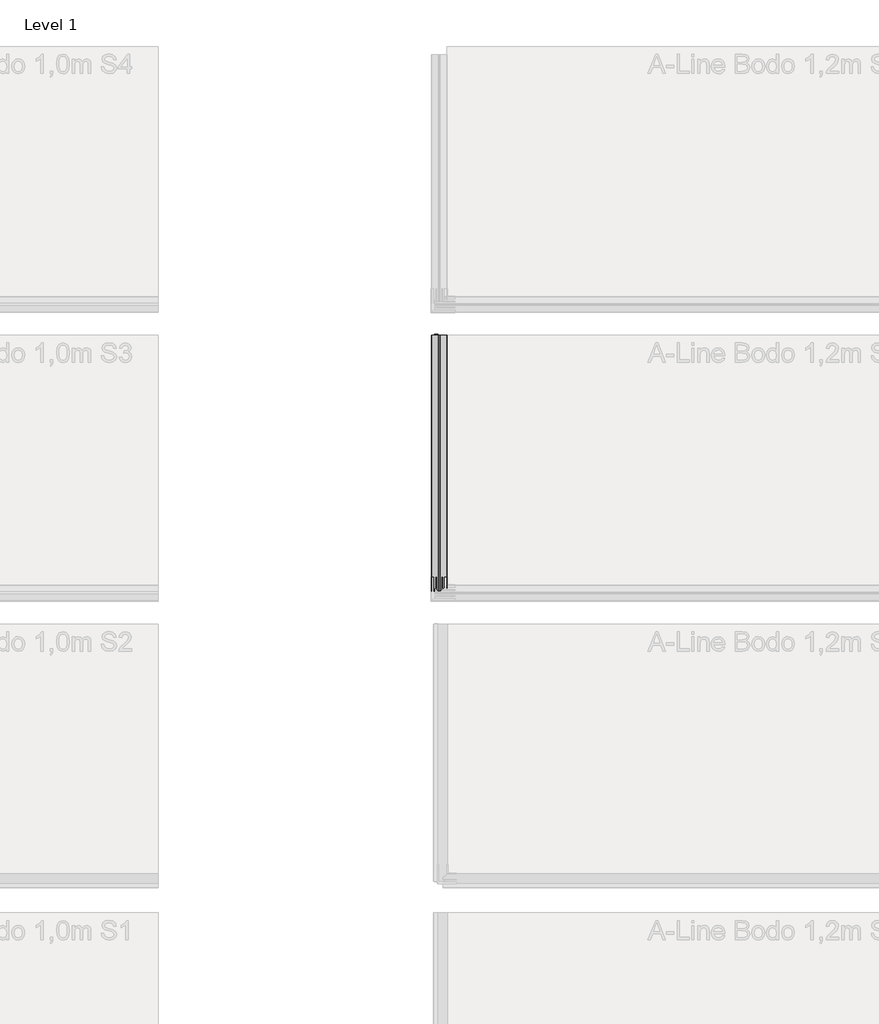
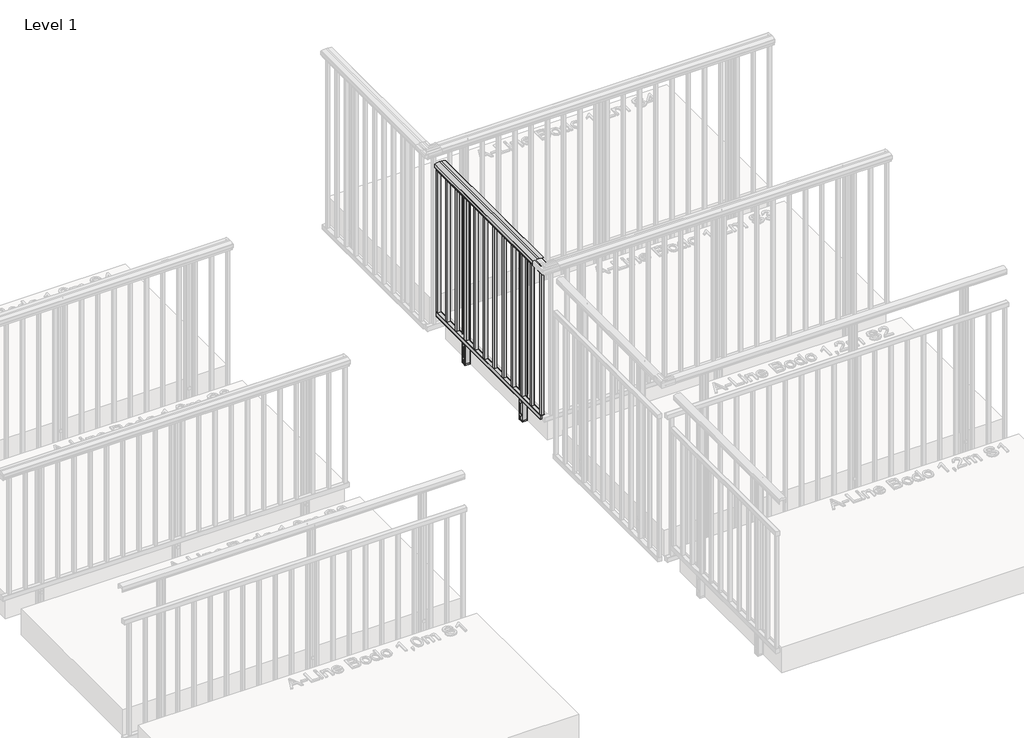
# One storey, part 14 of 66: 1 railing.
"""IFC4 building model written with IfcOpenShell, lengths in millimetres."""

from ifc_helpers import new_model, si_unit, point, frame, frame_2d, origin, place, context, project, spatial, polyline, circle_curve, trimmed, segment, composite_curve, outline, extrude, element, save

model = new_model("IFC4")

# Units and contexts
model_context = context("Model", 3, world=origin())
ifc_project = project(units=[si_unit("LENGTHUNIT", "METRE", prefix="MILLI")], contexts=[model_context])

# Site, building, storey
site = spatial("IfcSite", under=ifc_project)
building = spatial("IfcBuilding", under=site)
storey = spatial("IfcBuildingStorey", under=building, Name="Level 1", Elevation=0.0)

# Railing
placement = place(None, origin())
element("IfcRailing", 1, ObjectType="A-Line Bodo 1,2m S3", at=placement, inside=storey, context=model_context, shape_type="SweptSolid", body=[
    extrude(outline(composite_curve([segment(polyline([(1170.6825033, 8424.0540283), (1170.0570224, 8424.6795093), (1169.4717338, 8424.0942207), (1165.5021186, 8424.0540283)]), True, "CONTINUOUS"), segment(trimmed(circle_curve(frame_2d((1165.5021186, 8424.5540283)), 0.5), [point((1165.5021186, 8424.0540283))], [point((1165.0021186, 8424.5540283))], False, "CARTESIAN"), True, "CONTINUOUS"), segment(polyline([(1165.0021186, 8424.5540283), (1165.0021186, 8425.5540283), (1179.5021186, 8425.5540283)]), True, "CONTINUOUS"), segment(trimmed(circle_curve(frame_2d((1179.5021186, 8426.0540283)), 0.5), [point((1179.5021186, 8425.5540283))], [point((1180.0021186, 8426.0540283))], True, "CARTESIAN"), True, "CONTINUOUS"), segment(polyline([(1180.0021186, 8426.0540283), (1180.0021186, 8504.0540283)]), True, "CONTINUOUS"), segment(trimmed(circle_curve(frame_2d((1179.5021186, 8504.0540283)), 0.5), [point((1180.0021186, 8504.0540283))], [point((1179.5021186, 8504.5540283))], True, "CARTESIAN"), True, "CONTINUOUS"), segment(polyline([(1179.5021186, 8504.5540283), (1165.0021186, 8504.5540283), (1165.0021186, 8505.5540283)]), True, "CONTINUOUS"), segment(trimmed(circle_curve(frame_2d((1165.5021186, 8505.5540283)), 0.5), [point((1165.0021186, 8505.5540283))], [point((1165.5021186, 8506.0540283))], False, "CARTESIAN"), True, "CONTINUOUS"), segment(polyline([(1165.5021186, 8506.0540283), (1169.2627449, 8506.0540283), (1169.9177203, 8505.3990529), (1170.5325033, 8506.0138359), (1191.2139911, 8506.0540283)]), True, "CONTINUOUS"), segment(trimmed(circle_curve(frame_2d((1191.2139911, 8503.0540283)), 3.0), [point((1191.2139911, 8506.0540283))], [point((1194.0180233, 8504.1205197))], False, "CARTESIAN"), True, "CONTINUOUS"), segment(trimmed(circle_curve(frame_2d((1108.3938053, 8471.5540283)), 91.6083133), [point((1194.0180233, 8504.1205197))], [point((1200.0021186, 8471.5540283))], False, "CARTESIAN"), True, "CONTINUOUS"), segment(polyline([(1200.0021186, 8471.5540283), (1200.0021186, 8458.5540283)]), True, "CONTINUOUS"), segment(trimmed(circle_curve(frame_2d((1108.3938053, 8458.5540283)), 91.6083133), [point((1200.0021186, 8458.5540283))], [point((1194.0180233, 8425.987537))], False, "CARTESIAN"), True, "CONTINUOUS"), segment(trimmed(circle_curve(frame_2d((1191.2139911, 8427.0540283)), 3.0), [point((1194.0180233, 8425.987537))], [point((1191.2139911, 8424.0540283))], False, "CARTESIAN"), True, "CONTINUOUS"), segment(polyline([(1191.2139911, 8424.0540283), (1170.6825033, 8424.0540283)]), True, "CONTINUOUS")], self_intersect=False)), frame((0.0, -14599.7113559, 0.0), z_axis=(0.0, 1.0, 0.0), x_axis=(0.0, 0.0, 1.0)), (0.0, 0.0, 1.0), 1330.0),
    extrude(outline(composite_curve([segment(polyline([(1177.0, 8434.5047322), (1144.8, 8434.5047322)]), True, "CONTINUOUS"), segment(trimmed(circle_curve(frame_2d((1144.8, 8435.5047322)), 1.0), [point((1144.8, 8434.5047322))], [point((1143.8, 8435.5047322))], False, "CARTESIAN"), True, "CONTINUOUS"), segment(polyline([(1143.8, 8435.5047322), (1143.8, 8462.6047322)]), True, "CONTINUOUS"), segment(trimmed(circle_curve(frame_2d((1144.8, 8462.6047322)), 1.0), [point((1143.8, 8462.6047322))], [point((1144.8, 8463.6047322))], False, "CARTESIAN"), True, "CONTINUOUS"), segment(polyline([(1144.8, 8463.6047322), (1177.0, 8463.6047322)]), True, "CONTINUOUS"), segment(trimmed(circle_curve(frame_2d((1177.0, 8462.6047322)), 1.0), [point((1177.0, 8463.6047322))], [point((1178.0, 8462.6047322))], False, "CARTESIAN"), True, "CONTINUOUS"), segment(polyline([(1178.0, 8462.6047322), (1178.0, 8435.5047322)]), True, "CONTINUOUS"), segment(trimmed(circle_curve(frame_2d((1177.0, 8435.5047322)), 1.0), [point((1178.0, 8435.5047322))], [point((1177.0, 8434.5047322))], False, "CARTESIAN"), True, "CONTINUOUS")], self_intersect=False)), frame((0.0, -14599.7113559, 0.0), z_axis=(0.0, 1.0, 0.0), x_axis=(0.0, 0.0, 1.0)), (0.0, 0.0, 1.0), 1330.0),
    extrude(outline(composite_curve([segment(trimmed(circle_curve(frame_2d((33.2, 8435.5047322)), 1.0), [point((34.2, 8435.5047322))], [point((33.2, 8434.5047322))], False, "CARTESIAN"), True, "CONTINUOUS"), segment(polyline([(33.2, 8434.5047322), (1.0, 8434.5047322)]), True, "CONTINUOUS"), segment(trimmed(circle_curve(frame_2d((1.0, 8435.5047322)), 1.0), [point((1.0, 8434.5047322))], [point((0.0, 8435.5047322))], False, "CARTESIAN"), True, "CONTINUOUS"), segment(polyline([(0.0, 8435.5047322), (0.0, 8462.6047322)]), True, "CONTINUOUS"), segment(trimmed(circle_curve(frame_2d((1.0, 8462.6047322)), 1.0), [point((0.0, 8462.6047322))], [point((1.0, 8463.6047322))], False, "CARTESIAN"), True, "CONTINUOUS"), segment(polyline([(1.0, 8463.6047322), (33.2, 8463.6047322)]), True, "CONTINUOUS"), segment(trimmed(circle_curve(frame_2d((33.2, 8462.6047322)), 1.0), [point((33.2, 8463.6047322))], [point((34.2, 8462.6047322))], False, "CARTESIAN"), True, "CONTINUOUS"), segment(polyline([(34.2, 8462.6047322), (34.2, 8435.5047322)]), True, "CONTINUOUS")], self_intersect=False)), frame((0.0, -14599.7113559, 0.0), z_axis=(0.0, 1.0, 0.0), x_axis=(0.0, 0.0, 1.0)), (0.0, 0.0, 1.0), 1330.0),
    extrude(outline(polyline([(8439.0547322, -14584.7113559), (8459.0547322, -14584.7113559), (8459.0547322, -14604.7113559), (8439.0547322, -14604.7113559), (8439.0547322, -14584.7113559)]), holes=[polyline([(8441.0547322, -14586.7113559), (8441.0547322, -14602.7113559), (8457.0547322, -14602.7113559), (8457.0547322, -14586.7113559), (8441.0547322, -14586.7113559)])]), frame((0.0, 0.0, 34.0), z_axis=(0.0, 0.0, 1.0), x_axis=(1.0, 0.0, 0.0)), (0.0, 0.0, 1.0), 1110.0),
    extrude(outline(polyline([(8439.0547322, -14464.7113559), (8459.0547322, -14464.7113559), (8459.0547322, -14484.7113559), (8439.0547322, -14484.7113559), (8439.0547322, -14464.7113559)]), holes=[polyline([(8441.0547322, -14466.7113559), (8441.0547322, -14482.7113559), (8457.0547322, -14482.7113559), (8457.0547322, -14466.7113559), (8441.0547322, -14466.7113559)])]), frame((0.0, 0.0, 34.0), z_axis=(0.0, 0.0, 1.0), x_axis=(1.0, 0.0, 0.0)), (0.0, 0.0, 1.0), 1110.0),
    extrude(outline(polyline([(8439.0547322, -14344.7113559), (8459.0547322, -14344.7113559), (8459.0547322, -14364.7113559), (8439.0547322, -14364.7113559), (8439.0547322, -14344.7113559)]), holes=[polyline([(8441.0547322, -14346.7113559), (8441.0547322, -14362.7113559), (8457.0547322, -14362.7113559), (8457.0547322, -14346.7113559), (8441.0547322, -14346.7113559)])]), frame((0.0, 0.0, 34.0), z_axis=(0.0, 0.0, 1.0), x_axis=(1.0, 0.0, 0.0)), (0.0, 0.0, 1.0), 1110.0),
    extrude(outline(polyline([(8439.0547322, -14224.7113559), (8459.0547322, -14224.7113559), (8459.0547322, -14244.7113559), (8439.0547322, -14244.7113559), (8439.0547322, -14224.7113559)]), holes=[polyline([(8441.0547322, -14226.7113559), (8441.0547322, -14242.7113559), (8457.0547322, -14242.7113559), (8457.0547322, -14226.7113559), (8441.0547322, -14226.7113559)])]), frame((0.0, 0.0, 34.0), z_axis=(0.0, 0.0, 1.0), x_axis=(1.0, 0.0, 0.0)), (0.0, 0.0, 1.0), 1110.0),
    extrude(outline(polyline([(8439.0547322, -14104.7113559), (8459.0547322, -14104.7113559), (8459.0547322, -14124.7113559), (8439.0547322, -14124.7113559), (8439.0547322, -14104.7113559)]), holes=[polyline([(8441.0547322, -14106.7113559), (8441.0547322, -14122.7113559), (8457.0547322, -14122.7113559), (8457.0547322, -14106.7113559), (8441.0547322, -14106.7113559)])]), frame((0.0, 0.0, 34.0), z_axis=(0.0, 0.0, 1.0), x_axis=(1.0, 0.0, 0.0)), (0.0, 0.0, 1.0), 1110.0),
    extrude(outline(polyline([(8439.0547322, -13984.7113559), (8459.0547322, -13984.7113559), (8459.0547322, -14004.7113559), (8439.0547322, -14004.7113559), (8439.0547322, -13984.7113559)]), holes=[polyline([(8441.0547322, -13986.7113559), (8441.0547322, -14002.7113559), (8457.0547322, -14002.7113559), (8457.0547322, -13986.7113559), (8441.0547322, -13986.7113559)])]), frame((0.0, 0.0, 34.0), z_axis=(0.0, 0.0, 1.0), x_axis=(1.0, 0.0, 0.0)), (0.0, 0.0, 1.0), 1110.0),
    extrude(outline(polyline([(8439.0547322, -13864.7113559), (8459.0547322, -13864.7113559), (8459.0547322, -13884.7113559), (8439.0547322, -13884.7113559), (8439.0547322, -13864.7113559)]), holes=[polyline([(8441.0547322, -13866.7113559), (8441.0547322, -13882.7113559), (8457.0547322, -13882.7113559), (8457.0547322, -13866.7113559), (8441.0547322, -13866.7113559)])]), frame((0.0, 0.0, 34.0), z_axis=(0.0, 0.0, 1.0), x_axis=(1.0, 0.0, 0.0)), (0.0, 0.0, 1.0), 1110.0),
    extrude(outline(polyline([(8439.0547322, -13744.7113559), (8459.0547322, -13744.7113559), (8459.0547322, -13764.7113559), (8439.0547322, -13764.7113559), (8439.0547322, -13744.7113559)]), holes=[polyline([(8441.0547322, -13746.7113559), (8441.0547322, -13762.7113559), (8457.0547322, -13762.7113559), (8457.0547322, -13746.7113559), (8441.0547322, -13746.7113559)])]), frame((0.0, 0.0, 34.0), z_axis=(0.0, 0.0, 1.0), x_axis=(1.0, 0.0, 0.0)), (0.0, 0.0, 1.0), 1110.0),
    extrude(outline(polyline([(8439.0547322, -13624.7113559), (8459.0547322, -13624.7113559), (8459.0547322, -13644.7113559), (8439.0547322, -13644.7113559), (8439.0547322, -13624.7113559)]), holes=[polyline([(8441.0547322, -13626.7113559), (8441.0547322, -13642.7113559), (8457.0547322, -13642.7113559), (8457.0547322, -13626.7113559), (8441.0547322, -13626.7113559)])]), frame((0.0, 0.0, 34.0), z_axis=(0.0, 0.0, 1.0), x_axis=(1.0, 0.0, 0.0)), (0.0, 0.0, 1.0), 1110.0),
    extrude(outline(polyline([(8439.0547322, -13504.7113559), (8459.0547322, -13504.7113559), (8459.0547322, -13524.7113559), (8439.0547322, -13524.7113559), (8439.0547322, -13504.7113559)]), holes=[polyline([(8441.0547322, -13506.7113559), (8441.0547322, -13522.7113559), (8457.0547322, -13522.7113559), (8457.0547322, -13506.7113559), (8441.0547322, -13506.7113559)])]), frame((0.0, 0.0, 34.0), z_axis=(0.0, 0.0, 1.0), x_axis=(1.0, 0.0, 0.0)), (0.0, 0.0, 1.0), 1110.0),
    extrude(outline(polyline([(8439.0547322, -13384.7113559), (8459.0547322, -13384.7113559), (8459.0547322, -13404.7113559), (8439.0547322, -13404.7113559), (8439.0547322, -13384.7113559)]), holes=[polyline([(8441.0547322, -13386.7113559), (8441.0547322, -13402.7113559), (8457.0547322, -13402.7113559), (8457.0547322, -13386.7113559), (8441.0547322, -13386.7113559)])]), frame((0.0, 0.0, 34.0), z_axis=(0.0, 0.0, 1.0), x_axis=(1.0, 0.0, 0.0)), (0.0, 0.0, 1.0), 1110.0),
    extrude(outline(polyline([(8439.0547322, -13264.7113559), (8459.0547322, -13264.7113559), (8459.0547322, -13284.7113559), (8439.0547322, -13284.7113559), (8439.0547322, -13264.7113559)]), holes=[polyline([(8441.0547322, -13266.7113559), (8441.0547322, -13282.7113559), (8457.0547322, -13282.7113559), (8457.0547322, -13266.7113559), (8441.0547322, -13266.7113559)])]), frame((0.0, 0.0, 34.0), z_axis=(0.0, 0.0, 1.0), x_axis=(1.0, 0.0, 0.0)), (0.0, 0.0, 1.0), 1110.0),
    extrude(outline(composite_curve([segment(polyline([(8504.0547322, -14300.5141429), (8504.0547322, -14317.5374429)]), True, "CONTINUOUS"), segment(trimmed(circle_curve(frame_2d((8501.8808192, -14317.5374429)), 2.173913), [point((8504.0547322, -14317.5374429))], [point((8501.8808192, -14319.7113559))], False, "CARTESIAN"), True, "CONTINUOUS"), segment(polyline([(8501.8808192, -14319.7113559), (8466.2286453, -14319.7113559)]), True, "CONTINUOUS"), segment(trimmed(circle_curve(frame_2d((8466.2286453, -14317.5374429)), 2.173913), [point((8466.2286453, -14319.7113559))], [point((8464.0547322, -14317.5374429))], False, "CARTESIAN"), True, "CONTINUOUS"), segment(polyline([(8464.0547322, -14317.5374429), (8464.0896821, -14300.479193), (8464.8575193, -14299.7113559), (8464.0896821, -14298.9435188), (8464.0547322, -14281.885269)]), True, "CONTINUOUS"), segment(trimmed(circle_curve(frame_2d((8466.2286453, -14281.885269)), 2.173913), [point((8464.0547322, -14281.885269))], [point((8466.2286453, -14279.7113559))], False, "CARTESIAN"), True, "CONTINUOUS"), segment(polyline([(8466.2286453, -14279.7113559), (8501.8808192, -14279.7113559)]), True, "CONTINUOUS"), segment(trimmed(circle_curve(frame_2d((8501.8808192, -14281.885269)), 2.173913), [point((8501.8808192, -14279.7113559))], [point((8504.0547322, -14281.8852689))], False, "CARTESIAN"), True, "CONTINUOUS"), segment(polyline([(8504.0547322, -14281.8852689), (8504.0197823, -14298.9435188), (8503.2519452, -14299.7113559), (8504.0547322, -14300.5141429)]), True, "CONTINUOUS")], self_intersect=False)), frame((0.0, 0.0, -200.0), z_axis=(0.0, 0.0, 1.0), x_axis=(1.0, 0.0, 0.0)), (0.0, 0.0, 1.0), 10.0),
    extrude(outline(composite_curve([segment(trimmed(circle_curve(frame_2d((0.0, 12.0000001)), 12.0), [point((0.0, 24.0))], [point((0.0, 0.0))], False, "CARTESIAN"), True, "CONTINUOUS"), segment(trimmed(circle_curve(frame_2d((0.0, 12.0000001)), 12.0), [point((0.0, 0.0))], [point((0.0, 24.0))], False, "CARTESIAN"), True, "CONTINUOUS")], self_intersect=False)), frame((8464.0666505, -14287.7023183, -151.0), z_axis=(-0.9999999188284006, 0.00040291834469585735, 0.0), x_axis=(0.0, 0.0, -1.0)), (0.0, 0.0, 1.0), 3.0757477),
    extrude(outline(composite_curve([segment(trimmed(circle_curve(frame_2d((0.0, 12.0000001)), 12.0), [point((0.0, 24.0))], [point((0.0, 0.0))], False, "CARTESIAN"), True, "CONTINUOUS"), segment(trimmed(circle_curve(frame_2d((0.0, 12.0000001)), 12.0), [point((0.0, 0.0))], [point((0.0, 24.0))], False, "CARTESIAN"), True, "CONTINUOUS")], self_intersect=False)), frame((8464.0666505, -14287.7023183, -50.0), z_axis=(-0.9999999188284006, 0.00040291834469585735, 0.0), x_axis=(0.0, 0.0, -1.0)), (0.0, 0.0, 1.0), 3.0757477),
    extrude(outline(composite_curve([segment(trimmed(circle_curve(frame_2d((8501.8808192, -14281.885269)), 2.173913), [point((8501.8808192, -14279.7113559))], [point((8504.0547322, -14281.885269))], False, "CARTESIAN"), True, "CONTINUOUS"), segment(polyline([(8504.0547322, -14281.885269), (8504.0197823, -14298.9435188), (8503.6517779, -14299.8417907), (8504.0547322, -14300.6096278), (8504.0547322, -14317.5374429)]), True, "CONTINUOUS"), segment(trimmed(circle_curve(frame_2d((8501.8808192, -14317.5374429)), 2.173913), [point((8504.0547322, -14317.5374429))], [point((8501.8808192, -14319.7113559))], False, "CARTESIAN"), True, "CONTINUOUS"), segment(polyline([(8501.8808192, -14319.7113559), (8466.2286453, -14319.7113559)]), True, "CONTINUOUS"), segment(trimmed(circle_curve(frame_2d((8466.2286453, -14317.5374429)), 2.173913), [point((8466.2286453, -14319.7113559))], [point((8464.0547322, -14317.5374429))], False, "CARTESIAN"), True, "CONTINUOUS"), segment(polyline([(8464.0547322, -14317.5374429), (8464.0896821, -14300.479193), (8464.8575193, -14299.7113559), (8464.0896821, -14298.9435188), (8464.0547322, -14281.885269)]), True, "CONTINUOUS"), segment(trimmed(circle_curve(frame_2d((8466.2286453, -14281.885269)), 2.173913), [point((8464.0547322, -14281.885269))], [point((8466.2286453, -14279.7113559))], False, "CARTESIAN"), True, "CONTINUOUS"), segment(polyline([(8466.2286453, -14279.7113559), (8501.8808192, -14279.7113559)]), True, "CONTINUOUS")], self_intersect=False), holes=[composite_curve([segment(polyline([(8499.7069062, -14283.1896168), (8468.4025583, -14283.1896168)]), True, "CONTINUOUS"), segment(trimmed(circle_curve(frame_2d((8468.4025583, -14284.059182)), 0.8695652), [point((8468.4025583, -14283.1896168))], [point((8467.5329931, -14284.059182))], True, "CARTESIAN"), True, "CONTINUOUS"), segment(polyline([(8467.5329931, -14284.059182), (8467.5329931, -14315.3635298)]), True, "CONTINUOUS"), segment(trimmed(circle_curve(frame_2d((8468.4025583, -14315.3635298)), 0.8695652), [point((8467.5329931, -14315.3635298))], [point((8468.4025583, -14316.233095))], True, "CARTESIAN"), True, "CONTINUOUS"), segment(polyline([(8468.4025583, -14316.233095), (8499.7069062, -14316.233095)]), True, "CONTINUOUS"), segment(trimmed(circle_curve(frame_2d((8499.7069062, -14315.3635298)), 0.8695652), [point((8499.7069062, -14316.233095))], [point((8500.5764714, -14315.3635298))], True, "CARTESIAN"), True, "CONTINUOUS"), segment(polyline([(8500.5764714, -14315.3635298), (8500.5764714, -14284.059182)]), True, "CONTINUOUS"), segment(trimmed(circle_curve(frame_2d((8499.7069062, -14284.059182)), 0.8695652), [point((8500.5764714, -14284.059182))], [point((8499.7069062, -14283.1896168))], True, "CARTESIAN"), True, "CONTINUOUS")], self_intersect=False)]), frame((0.0, 0.0, -190.0), z_axis=(0.0, 0.0, 1.0), x_axis=(1.0, 0.0, 0.0)), (0.0, 0.0, 1.0), 1371.0),
    extrude(outline(composite_curve([segment(polyline([(8504.0547322, -13570.5141429), (8504.0547322, -13587.5374429)]), True, "CONTINUOUS"), segment(trimmed(circle_curve(frame_2d((8501.8808192, -13587.5374429)), 2.173913), [point((8504.0547322, -13587.5374429))], [point((8501.8808192, -13589.7113559))], False, "CARTESIAN"), True, "CONTINUOUS"), segment(polyline([(8501.8808192, -13589.7113559), (8466.2286453, -13589.7113559)]), True, "CONTINUOUS"), segment(trimmed(circle_curve(frame_2d((8466.2286453, -13587.5374429)), 2.173913), [point((8466.2286453, -13589.7113559))], [point((8464.0547322, -13587.5374429))], False, "CARTESIAN"), True, "CONTINUOUS"), segment(polyline([(8464.0547322, -13587.5374429), (8464.0896821, -13570.479193), (8464.8575193, -13569.7113559), (8464.0896821, -13568.9435188), (8464.0547322, -13551.885269)]), True, "CONTINUOUS"), segment(trimmed(circle_curve(frame_2d((8466.2286453, -13551.885269)), 2.173913), [point((8464.0547322, -13551.885269))], [point((8466.2286453, -13549.7113559))], False, "CARTESIAN"), True, "CONTINUOUS"), segment(polyline([(8466.2286453, -13549.7113559), (8501.8808192, -13549.7113559)]), True, "CONTINUOUS"), segment(trimmed(circle_curve(frame_2d((8501.8808192, -13551.885269)), 2.173913), [point((8501.8808192, -13549.7113559))], [point((8504.0547322, -13551.8852689))], False, "CARTESIAN"), True, "CONTINUOUS"), segment(polyline([(8504.0547322, -13551.8852689), (8504.0197823, -13568.9435188), (8503.2519452, -13569.7113559), (8504.0547322, -13570.5141429)]), True, "CONTINUOUS")], self_intersect=False)), frame((0.0, 0.0, -200.0), z_axis=(0.0, 0.0, 1.0), x_axis=(1.0, 0.0, 0.0)), (0.0, 0.0, 1.0), 10.0),
    extrude(outline(composite_curve([segment(trimmed(circle_curve(frame_2d((0.0, 12.0000001)), 12.0), [point((0.0, 24.0))], [point((0.0, 0.0))], False, "CARTESIAN"), True, "CONTINUOUS"), segment(trimmed(circle_curve(frame_2d((0.0, 12.0000001)), 12.0), [point((0.0, 0.0))], [point((0.0, 24.0))], False, "CARTESIAN"), True, "CONTINUOUS")], self_intersect=False)), frame((8464.0666505, -13557.7023183, -151.0), z_axis=(-0.9999999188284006, 0.00040291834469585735, 0.0), x_axis=(0.0, 0.0, -1.0)), (0.0, 0.0, 1.0), 3.0757477),
    extrude(outline(composite_curve([segment(trimmed(circle_curve(frame_2d((0.0, 12.0000001)), 12.0), [point((0.0, 24.0))], [point((0.0, 0.0))], False, "CARTESIAN"), True, "CONTINUOUS"), segment(trimmed(circle_curve(frame_2d((0.0, 12.0000001)), 12.0), [point((0.0, 0.0))], [point((0.0, 24.0))], False, "CARTESIAN"), True, "CONTINUOUS")], self_intersect=False)), frame((8464.0666505, -13557.7023183, -50.0), z_axis=(-0.9999999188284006, 0.00040291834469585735, 0.0), x_axis=(0.0, 0.0, -1.0)), (0.0, 0.0, 1.0), 3.0757477),
    extrude(outline(composite_curve([segment(trimmed(circle_curve(frame_2d((8501.8808192, -13551.885269)), 2.173913), [point((8501.8808192, -13549.7113559))], [point((8504.0547322, -13551.885269))], False, "CARTESIAN"), True, "CONTINUOUS"), segment(polyline([(8504.0547322, -13551.885269), (8504.0197823, -13568.9435188), (8503.6517779, -13569.8417907), (8504.0547322, -13570.6096278), (8504.0547322, -13587.5374429)]), True, "CONTINUOUS"), segment(trimmed(circle_curve(frame_2d((8501.8808192, -13587.5374429)), 2.173913), [point((8504.0547322, -13587.5374429))], [point((8501.8808192, -13589.7113559))], False, "CARTESIAN"), True, "CONTINUOUS"), segment(polyline([(8501.8808192, -13589.7113559), (8466.2286453, -13589.7113559)]), True, "CONTINUOUS"), segment(trimmed(circle_curve(frame_2d((8466.2286453, -13587.5374429)), 2.173913), [point((8466.2286453, -13589.7113559))], [point((8464.0547322, -13587.5374429))], False, "CARTESIAN"), True, "CONTINUOUS"), segment(polyline([(8464.0547322, -13587.5374429), (8464.0896821, -13570.479193), (8464.8575193, -13569.7113559), (8464.0896821, -13568.9435188), (8464.0547322, -13551.885269)]), True, "CONTINUOUS"), segment(trimmed(circle_curve(frame_2d((8466.2286453, -13551.885269)), 2.173913), [point((8464.0547322, -13551.885269))], [point((8466.2286453, -13549.7113559))], False, "CARTESIAN"), True, "CONTINUOUS"), segment(polyline([(8466.2286453, -13549.7113559), (8501.8808192, -13549.7113559)]), True, "CONTINUOUS")], self_intersect=False), holes=[composite_curve([segment(polyline([(8499.7069062, -13553.1896168), (8468.4025583, -13553.1896168)]), True, "CONTINUOUS"), segment(trimmed(circle_curve(frame_2d((8468.4025583, -13554.059182)), 0.8695652), [point((8468.4025583, -13553.1896168))], [point((8467.5329931, -13554.059182))], True, "CARTESIAN"), True, "CONTINUOUS"), segment(polyline([(8467.5329931, -13554.059182), (8467.5329931, -13585.3635298)]), True, "CONTINUOUS"), segment(trimmed(circle_curve(frame_2d((8468.4025583, -13585.3635298)), 0.8695652), [point((8467.5329931, -13585.3635298))], [point((8468.4025583, -13586.233095))], True, "CARTESIAN"), True, "CONTINUOUS"), segment(polyline([(8468.4025583, -13586.233095), (8499.7069062, -13586.233095)]), True, "CONTINUOUS"), segment(trimmed(circle_curve(frame_2d((8499.7069062, -13585.3635298)), 0.8695652), [point((8499.7069062, -13586.233095))], [point((8500.5764714, -13585.3635298))], True, "CARTESIAN"), True, "CONTINUOUS"), segment(polyline([(8500.5764714, -13585.3635298), (8500.5764714, -13554.059182)]), True, "CONTINUOUS"), segment(trimmed(circle_curve(frame_2d((8499.7069062, -13554.059182)), 0.8695652), [point((8500.5764714, -13554.059182))], [point((8499.7069062, -13553.1896168))], True, "CARTESIAN"), True, "CONTINUOUS")], self_intersect=False)]), frame((0.0, 0.0, -190.0), z_axis=(0.0, 0.0, 1.0), x_axis=(1.0, 0.0, 0.0)), (0.0, 0.0, 1.0), 1371.0),
])

save(model, "model.ifc")
